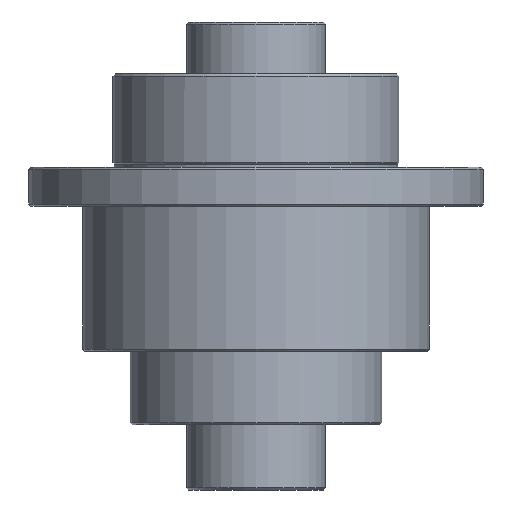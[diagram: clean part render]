
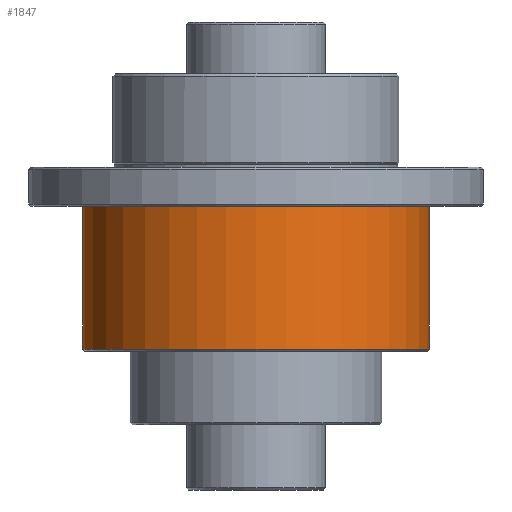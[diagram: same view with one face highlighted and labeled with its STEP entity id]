
A CAD part, front view. The second image highlights one B-rep face of the part: STEP entity #1847.
In plain terms, the highlighted cylindrical face has radius 40 mm (diameter 80 mm), a partial arc.
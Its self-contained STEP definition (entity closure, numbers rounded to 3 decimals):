
#38 = CARTESIAN_POINT ( 'NONE',  ( -40., 0., -27.5 ) ) ;
#165 = CIRCLE ( 'NONE', #576, 40. ) ;
#224 = CARTESIAN_POINT ( 'NONE',  ( -40., 0., -60.5 ) ) ;
#250 = CIRCLE ( 'NONE', #588, 40. ) ;
#433 = DIRECTION ( 'NONE',  ( 0., 0., 1. ) ) ;
#454 = EDGE_LOOP ( 'NONE', ( #1140, #1206, #1226, #1233 ) ) ;
#477 = CYLINDRICAL_SURFACE ( 'NONE', #866, 40. ) ;
#489 = FACE_OUTER_BOUND ( 'NONE', #454, .T. ) ;
#569 = CARTESIAN_POINT ( 'NONE',  ( 40., 0., -27.5 ) ) ;
#576 = AXIS2_PLACEMENT_3D ( 'NONE', #2155, #994, #2307 ) ;
#588 = AXIS2_PLACEMENT_3D ( 'NONE', #1554, #433, #1771 ) ;
#617 = DIRECTION ( 'NONE',  ( 0., 0., 1. ) ) ;
#621 = LINE ( 'NONE', #1971, #641 ) ;
#641 = VECTOR ( 'NONE', #617, 1000. ) ;
#655 = VECTOR ( 'NONE', #1550, 1000. ) ;
#667 = DIRECTION ( 'NONE',  ( 1., 0., 0. ) ) ;
#706 = LINE ( 'NONE', #783, #655 ) ;
#783 = CARTESIAN_POINT ( 'NONE',  ( 40., 0., 7. ) ) ;
#866 = AXIS2_PLACEMENT_3D ( 'NONE', #2033, #1044, #667 ) ;
#872 = CARTESIAN_POINT ( 'NONE',  ( 40., 0., -60.5 ) ) ;
#994 = DIRECTION ( 'NONE',  ( 0., 0., 1. ) ) ;
#1044 = DIRECTION ( 'NONE',  ( 0., 0., 1. ) ) ;
#1054 = VERTEX_POINT ( 'NONE', #38 ) ;
#1061 = VERTEX_POINT ( 'NONE', #224 ) ;
#1140 = ORIENTED_EDGE ( 'NONE', *, *, #1680, .F. ) ;
#1206 = ORIENTED_EDGE ( 'NONE', *, *, #2077, .T. ) ;
#1226 = ORIENTED_EDGE ( 'NONE', *, *, #1640, .T. ) ;
#1233 = ORIENTED_EDGE ( 'NONE', *, *, #2114, .F. ) ;
#1550 = DIRECTION ( 'NONE',  ( 0., 0., 1. ) ) ;
#1554 = CARTESIAN_POINT ( 'NONE',  ( 0., 0., -60.5 ) ) ;
#1640 = EDGE_CURVE ( 'NONE', #1884, #1945, #706, .T. ) ;
#1680 = EDGE_CURVE ( 'NONE', #1061, #1054, #621, .T. ) ;
#1771 = DIRECTION ( 'NONE',  ( 1., 0., 0. ) ) ;
#1847 = ADVANCED_FACE ( 'NONE', ( #489 ), #477, .T. ) ;
#1884 = VERTEX_POINT ( 'NONE', #872 ) ;
#1945 = VERTEX_POINT ( 'NONE', #569 ) ;
#1971 = CARTESIAN_POINT ( 'NONE',  ( -40., 0., 7. ) ) ;
#2033 = CARTESIAN_POINT ( 'NONE',  ( 0., 0., 7. ) ) ;
#2077 = EDGE_CURVE ( 'NONE', #1061, #1884, #250, .T. ) ;
#2114 = EDGE_CURVE ( 'NONE', #1054, #1945, #165, .T. ) ;
#2155 = CARTESIAN_POINT ( 'NONE',  ( 0., 0., -27.5 ) ) ;
#2307 = DIRECTION ( 'NONE',  ( 1., 0., 0. ) ) ;
